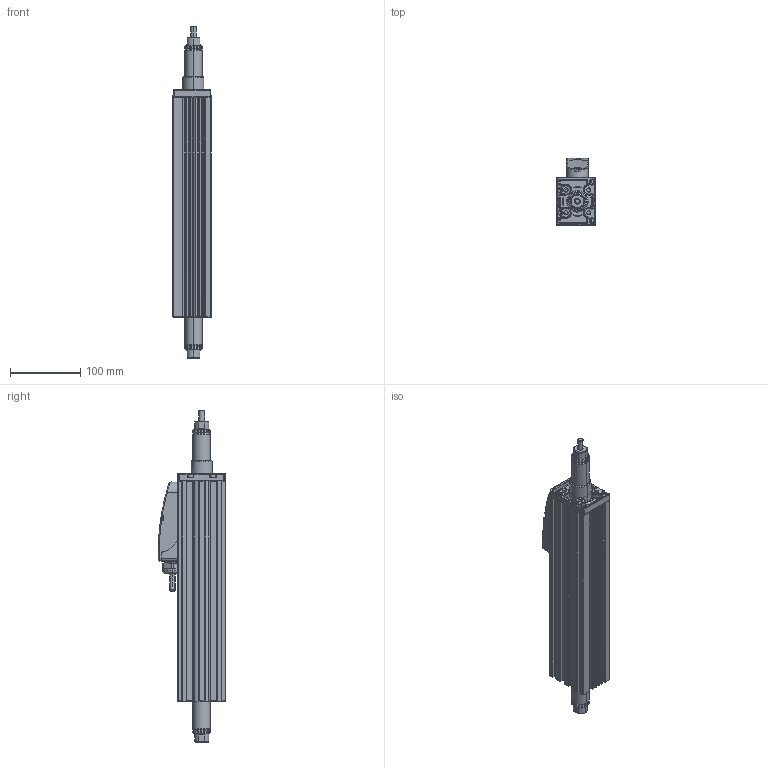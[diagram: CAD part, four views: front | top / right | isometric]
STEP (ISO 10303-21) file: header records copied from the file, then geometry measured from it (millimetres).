
FILE_DESCRIPTION (( 'STEP AP203' ), '1' );
FILE_NAME ('STA2510-078.STEP', '2011-10-13T13:16:01', ( 'showsden' ), ( '' ), 'SwSTEP 2.0', 'SolidWorks 2011', '' );
FILE_SCHEMA (( 'CONFIG_CONTROL_DESIGN' ));
Products named in the file (14): STA2510-078; TRA25 Thrust Rod - Solid_TRA2510 (078); Screw, Cap Head, M4_Screw, Cap Head, M4 x 16; STA25 Bearing End Support - Solid_MP02261; STA25 MOTOR HOUSING (REV-B)_STA2510; ST25 POD ASSEMBLY (DLS)_ST25 POD ASSEMBLY (SOLID); MP02254-D ST25 Pod Base Gasket_MP02254; ST25 CABLE ASSEMBLY (REV2)_MA02197 (FLEXING); POWER CABLE_FLEXING (POWER); SIGNAL CABLE_FLEXING (SIGNAL); PG16 Gland Nut (REV2)_PG16 (REV 2); Screw, Button Head, M3_Screw, Button Head, M3 x 10; Screw, Cap Head, M2.5_Screw, Cap Head, M2.5 x 6; ST25 POD (DLS)_ST25 POD (SOLID)
Assembly tree (20 placements, depth 4):
  STA2510-078
    STA25 Bearing End Support - Solid_MP02261
    ST25 POD ASSEMBLY (DLS)_ST25 POD ASSEMBLY (SOLID)
      ST25 POD (DLS)_ST25 POD (SOLID)
      ST25 CABLE ASSEMBLY (REV2)_MA02197 (FLEXING)
        SIGNAL CABLE_FLEXING (SIGNAL)
        PG16 Gland Nut (REV2)_PG16 (REV 2)
        POWER CABLE_FLEXING (POWER)
      Screw, Button Head, M3_Screw, Button Head, M3 x 10  x4
      MP02254-D ST25 Pod Base Gasket_MP02254
      Screw, Cap Head, M2.5_Screw, Cap Head, M2.5 x 6  x2
    STA25 MOTOR HOUSING (REV-B)_STA2510
    TRA25 Thrust Rod - Solid_TRA2510 (078)
    Screw, Cap Head, M4_Screw, Cap Head, M4 x 16  x4
Bounding box: 54 x 95.5 x 471 mm (x, y, z)
Volume: 1118487.8 mm3; surface area: 270842.6 mm2
Topology: 18 solids, 18 shells, 1636 faces, 4226 edges, 2687 vertices
Faces by surface type: plane 567, cylinder 516, bspline 365, cone 116, torus 56, sphere 16
Entity records: 75343 total; most frequent: CARTESIAN_POINT 39247, ORIENTED_EDGE 7888, DIRECTION 6221, EDGE_CURVE 3944, VERTEX_POINT 2531, AXIS2_PLACEMENT_3D 2326, EDGE_LOOP 1659, VECTOR 1569
